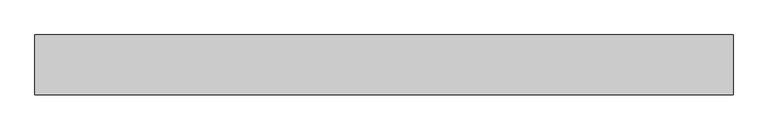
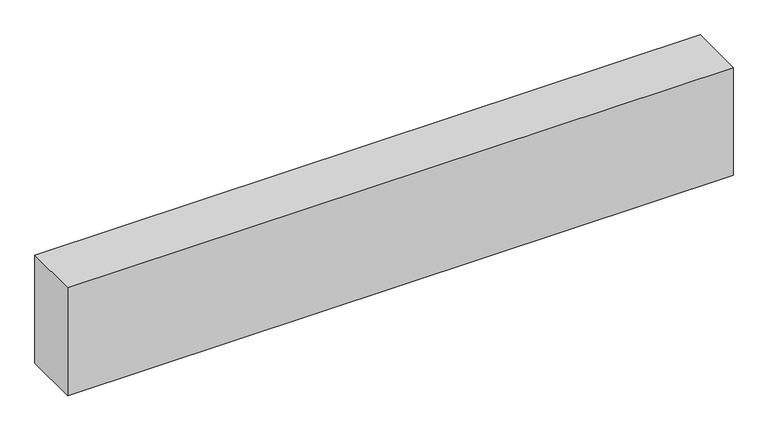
"""IFC4 building model written with IfcOpenShell, lengths in millimetres: beam geometry, NS R30 120x240x1400 : NS R30 120x240x1400."""

from ifc_helpers import new_model, si_unit, origin, origin_with_axes, place, context, project, spatial, polyline, outline, extrude, source, transform, mapped, element, save


def beam_321660e7(model_context):
    return source(origin(), model_context, "Body", "SweptSolid", [
        extrude(outline(polyline([(-700.0, -60.0), (-700.0, 60.0), (700.0, 60.0), (700.0, -60.0), (-700.0, -60.0)])), origin_with_axes(), (0.0, 0.0, 1.0), 240.0),
    ])


if __name__ == "__main__":
    model = new_model("IFC4")
    model_context = context("Model", 3, world=origin())
    ifc_project = project(units=[si_unit("LENGTHUNIT", "METRE", prefix="MILLI")], contexts=[model_context])
    site = spatial("IfcSite", under=ifc_project)
    building = spatial("IfcBuilding", under=site)
    placement = place(None, origin())
    beam_shape = beam_321660e7(model_context)
    element("IfcBeam", 1, ObjectType="NS R30 120x240x1400 : NS R30 120x240x1400", at=placement, inside=building, context=model_context, shape_type="MappedRepresentation", body=[
        mapped(beam_shape, transform((0.0, 0.0, 0.0), x_axis=(1.0, 0.0, 0.0), y_axis=(0.0, 1.0, 0.0), z_axis=(0.0, 0.0, 1.0))),
    ])
    save(model, "model.ifc")
